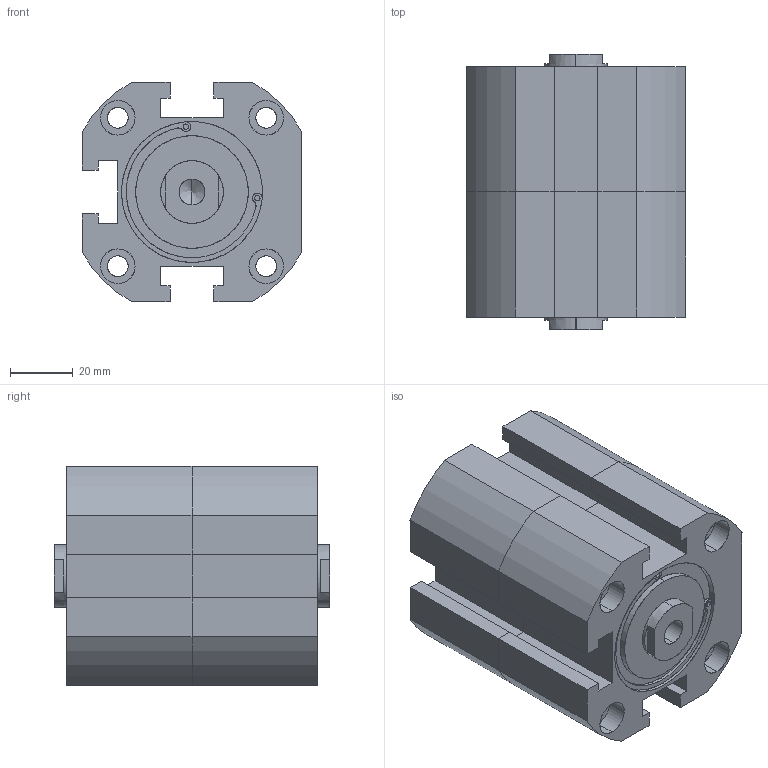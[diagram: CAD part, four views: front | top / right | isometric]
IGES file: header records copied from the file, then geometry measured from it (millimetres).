
Start section: SolidWorks IGES file using analytic representation for surfaces
Global section: file name: C:\Users\Toshiba\Desktop\XCD7-50-10-10.IGS; native system: SolidWorks 2014; preprocessor: SolidWorks 2014; author: Toshiba; date: 160805.094016; units: millimetre
Bounding box: 70 x 88 x 70 mm (x, y, z)
Surface area: 54629.5 mm2 (no closed solid volume)
Topology: 0 solids, 0 shells, 228 faces, 4084 edges, 4072 vertices
Faces by surface type: revolution 128, bspline 100
